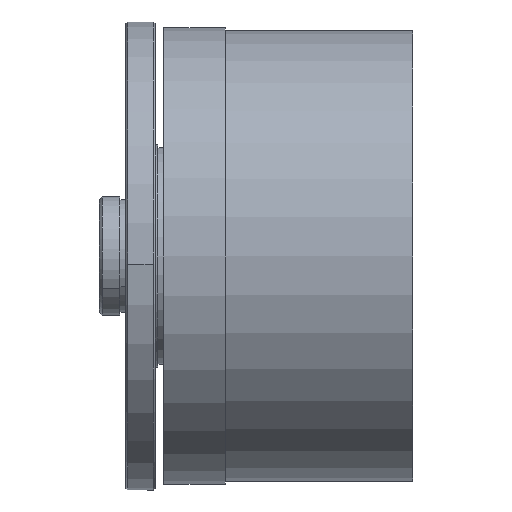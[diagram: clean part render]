
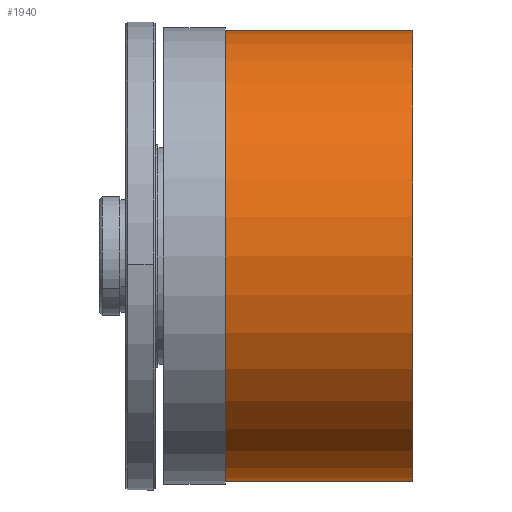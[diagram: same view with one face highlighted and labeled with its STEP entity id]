
A CAD part, left-side view. The second image highlights one B-rep face of the part: STEP entity #1940.
In plain terms, the highlighted cylindrical face has radius 38.5 mm (diameter 77 mm), a partial arc.
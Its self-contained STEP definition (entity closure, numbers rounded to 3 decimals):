
#5 = CARTESIAN_POINT ( 'NONE',  ( 0., 32., 0. ) ) ;
#12 = ORIENTED_EDGE ( 'NONE', *, *, #307, .F. ) ;
#110 = CARTESIAN_POINT ( 'NONE',  ( 0., 0., -38.5 ) ) ;
#135 = CARTESIAN_POINT ( 'NONE',  ( 0., 32., -38.5 ) ) ;
#150 = VERTEX_POINT ( 'NONE', #244 ) ;
#173 = CARTESIAN_POINT ( 'NONE',  ( 0., 32., 38.5 ) ) ;
#222 = LINE ( 'NONE', #1803, #1813 ) ;
#244 = CARTESIAN_POINT ( 'NONE',  ( 0., 0., 38.5 ) ) ;
#258 = DIRECTION ( 'NONE',  ( 0., -1., 0. ) ) ;
#307 = EDGE_CURVE ( 'NONE', #1627, #150, #2381, .T. ) ;
#364 = EDGE_CURVE ( 'NONE', #1582, #1203, #222, .T. ) ;
#373 = DIRECTION ( 'NONE',  ( 0., 0., -1. ) ) ;
#400 = DIRECTION ( 'NONE',  ( 0., -1., 0. ) ) ;
#733 = DIRECTION ( 'NONE',  ( 0., 0., -1. ) ) ;
#763 = EDGE_CURVE ( 'NONE', #1627, #1582, #2222, .T. ) ;
#782 = CARTESIAN_POINT ( 'NONE',  ( 0., 0., 0. ) ) ;
#866 = FACE_OUTER_BOUND ( 'NONE', #2243, .T. ) ;
#907 = VECTOR ( 'NONE', #2424, 1000. ) ;
#937 = CIRCLE ( 'NONE', #2187, 38.5 ) ;
#1095 = ORIENTED_EDGE ( 'NONE', *, *, #1350, .F. ) ;
#1107 = CARTESIAN_POINT ( 'NONE',  ( 0., 0., 0. ) ) ;
#1203 = VERTEX_POINT ( 'NONE', #110 ) ;
#1237 = AXIS2_PLACEMENT_3D ( 'NONE', #5, #2506, #1916 ) ;
#1350 = EDGE_CURVE ( 'NONE', #150, #1203, #937, .T. ) ;
#1582 = VERTEX_POINT ( 'NONE', #135 ) ;
#1598 = AXIS2_PLACEMENT_3D ( 'NONE', #1107, #1883, #733 ) ;
#1627 = VERTEX_POINT ( 'NONE', #173 ) ;
#1803 = CARTESIAN_POINT ( 'NONE',  ( 0., 0., -38.5 ) ) ;
#1813 = VECTOR ( 'NONE', #258, 1000. ) ;
#1835 = CYLINDRICAL_SURFACE ( 'NONE', #1598, 38.5 ) ;
#1843 = ORIENTED_EDGE ( 'NONE', *, *, #364, .T. ) ;
#1883 = DIRECTION ( 'NONE',  ( 0., -1., 0. ) ) ;
#1916 = DIRECTION ( 'NONE',  ( 0., 0., -1. ) ) ;
#1940 = ADVANCED_FACE ( 'NONE', ( #866 ), #1835, .T. ) ;
#2187 = AXIS2_PLACEMENT_3D ( 'NONE', #782, #400, #373 ) ;
#2191 = ORIENTED_EDGE ( 'NONE', *, *, #763, .T. ) ;
#2222 = CIRCLE ( 'NONE', #1237, 38.5 ) ;
#2230 = CARTESIAN_POINT ( 'NONE',  ( 0., 0., 38.5 ) ) ;
#2243 = EDGE_LOOP ( 'NONE', ( #12, #2191, #1843, #1095 ) ) ;
#2381 = LINE ( 'NONE', #2230, #907 ) ;
#2424 = DIRECTION ( 'NONE',  ( 0., -1., 0. ) ) ;
#2506 = DIRECTION ( 'NONE',  ( 0., -1., 0. ) ) ;
